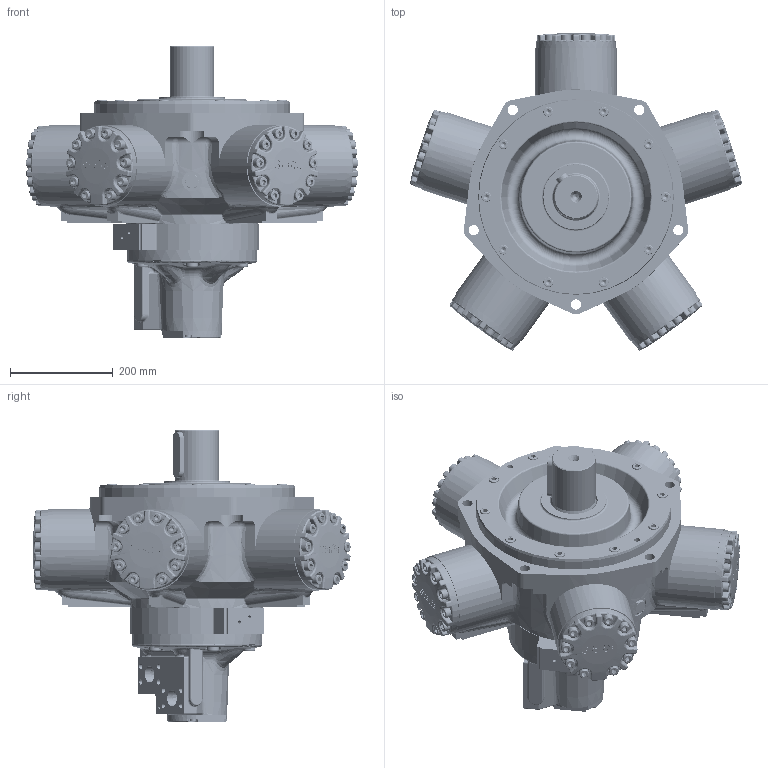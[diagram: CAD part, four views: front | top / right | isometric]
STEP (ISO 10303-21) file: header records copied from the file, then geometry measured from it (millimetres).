
FILE_DESCRIPTION((''),'2;1');
FILE_NAME('C:\Users\MNorman\Desktop\TEMP STUFF\HMC200 P FM3 X 70.stp','2012-10-03T09:57:39',('mnorman'),(''),'Autodesk Inventor 2013','Autodesk Inventor 2013','');
FILE_SCHEMA(('AUTOMOTIVE_DESIGN { 1 0 10303 214 1 1 1 1 }'));
Length unit declared in the file: millimetre
Products named in the file (1): Part3
Bounding box: 646.62 x 617.6 x 569.42 mm (x, y, z)
Volume: 29135630.6 mm3; surface area: 2421948.1 mm2
Topology: 2 solids, 85 shells, 3885 faces, 9297 edges, 5808 vertices
Faces by surface type: plane 1518, cylinder 804, bspline 760, cone 370, torus 284, sphere 144, revolution 5
Full cylindrical faces by diameter (mm): 3 x2, 6 x2, 6.2 x1, 7.938 x5, 8.731 x4, 10 x1, 10.109 x8, 11.328 x63, 11.913 x4, 12.7 x61, 13.494 x10, 13.5 x50, 14.351 x5, 15.875 x5, 16.272 x5, 16.7 x5, 19.05 x73, 20 x5, 20.6 x50, 20.637 x1, 20.638 x9, 22.2 x5, 23.825 x5, 25.4 x5, 27.68 x5, 28.677 x5, 31.75 x2, 38.1 x3, 38.176 x5, 38.18 x5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
Entity records: 134710 total; most frequent: CARTESIAN_POINT 52632, ORIENTED_EDGE 16060, DIRECTION 14377, EDGE_CURVE 8030, AXIS2_PLACEMENT_3D 5774, VERTEX_POINT 5518, EDGE_LOOP 5156, FACE_OUTER_BOUND 3885
